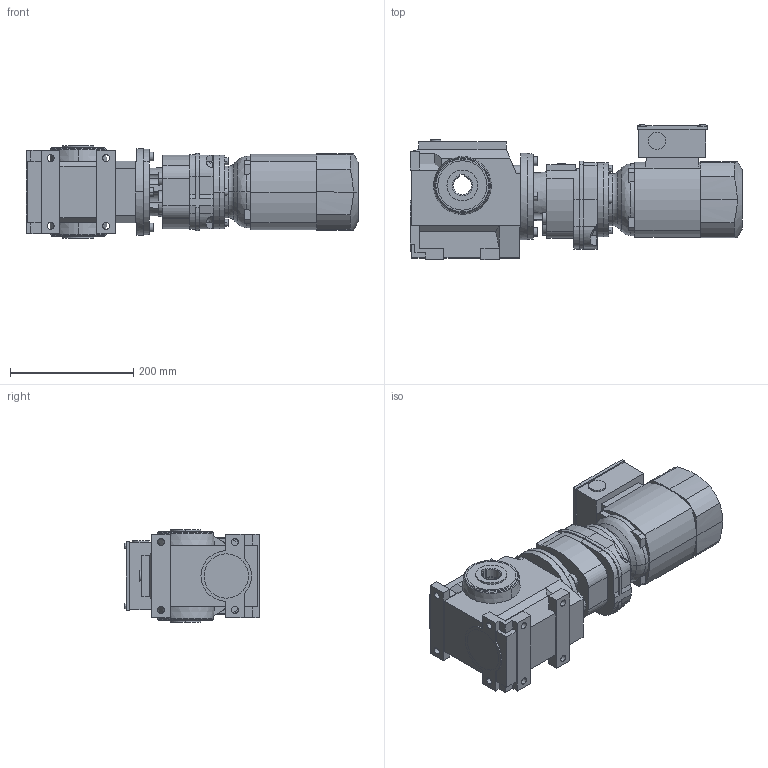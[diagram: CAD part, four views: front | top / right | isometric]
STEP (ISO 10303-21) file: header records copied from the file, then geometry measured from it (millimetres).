
FILE_DESCRIPTION(('STEP AP214'),'1');
FILE_NAME('STEP-File.stp','2018-01-01T00:00:00',(' '),('KEB'),' ','KEB-DRIVE',' ');
FILE_SCHEMA(('AUTOMOTIVE_DESIGN { 1 0 10303 214 1 1 1 1 }'));
Length unit declared in the file: millimetre
Products named in the file (12): s2a; wc_hw_30; wch_slno; fp1-c2; g1b; ck1; dm71_kkn; kk08; PLUG_M25; ndm71; S22G12A DM71G4§CAD13
Assembly tree (11 placements, depth 2):
  S22G12A DM71G4§CAD13
    s2a
    wc_hw_30
    wch_slno
    wch_slno
    fp1-c2
    g1b
    ck1
    dm71_kkn
    kk08
    PLUG_M25
    ndm71
Bounding box: 538.5 x 219 x 150 mm (x, y, z)
Volume: 8419925.4 mm3; surface area: 605353.1 mm2
Topology: 11 solids, 11 shells, 511 faces, 1390 edges, 997 vertices
Faces by surface type: plane 312, cylinder 128, cone 55, torus 12, extrusion 2, revolution 2
Entity records: 18248 total; most frequent: CARTESIAN_POINT 5495, ORIENTED_EDGE 2774, DIRECTION 2183, EDGE_CURVE 1387, VERTEX_POINT 997, VECTOR 912, LINE 910, AXIS2_PLACEMENT_3D 635
